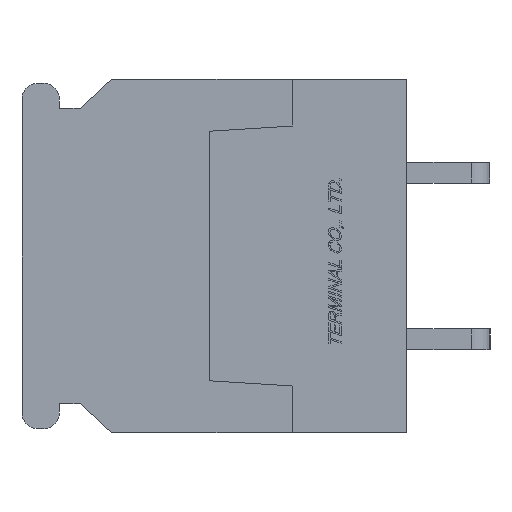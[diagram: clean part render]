
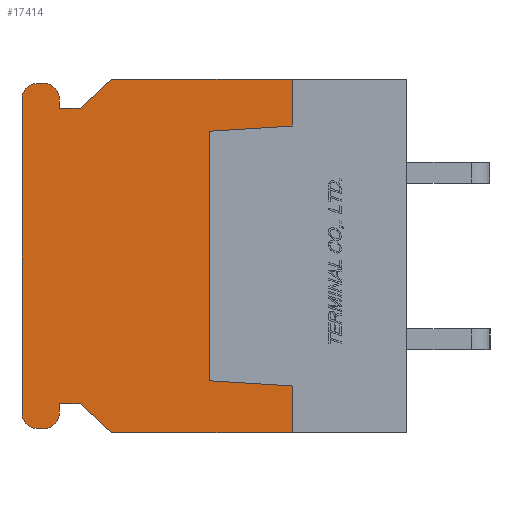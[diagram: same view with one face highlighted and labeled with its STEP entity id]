
A CAD part, left-side view. The second image highlights one B-rep face of the part: STEP entity #17414.
In plain terms, the highlighted planar face has unit normal (-1, 0, 0).
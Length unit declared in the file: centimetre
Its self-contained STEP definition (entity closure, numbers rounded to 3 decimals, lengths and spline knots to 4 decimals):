
#1035=CIRCLE('',#29761,0.075);
#1036=CIRCLE('',#29762,0.075);
#1037=CIRCLE('',#29763,0.075);
#1038=CIRCLE('',#29764,0.075);
#2139=VERTEX_POINT('',#26164);
#2140=VERTEX_POINT('',#26166);
#2141=VERTEX_POINT('',#26170);
#2142=VERTEX_POINT('',#26174);
#2143=VERTEX_POINT('',#26178);
#2144=VERTEX_POINT('',#26182);
#2194=VERTEX_POINT('',#26286);
#2242=VERTEX_POINT('',#26412);
#2415=VERTEX_POINT('',#27005);
#2416=VERTEX_POINT('',#27007);
#2417=VERTEX_POINT('',#27009);
#2418=VERTEX_POINT('',#27011);
#2419=VERTEX_POINT('',#27013);
#2420=VERTEX_POINT('',#27015);
#2421=VERTEX_POINT('',#27017);
#2422=VERTEX_POINT('',#27019);
#2423=VERTEX_POINT('',#27021);
#2424=VERTEX_POINT('',#27023);
#2425=VERTEX_POINT('',#27025);
#2426=VERTEX_POINT('',#27027);
#3886=VECTOR('',#20820,1.);
#3889=VECTOR('',#20824,1.);
#3891=VECTOR('',#20827,1.);
#3893=VECTOR('',#20830,1.);
#3895=VECTOR('',#20833,1.);
#3942=VECTOR('',#20890,1.);
#4003=VECTOR('',#20977,1.);
#4254=VECTOR('',#21468,1.);
#4255=VECTOR('',#21469,1.);
#4256=VECTOR('',#21470,1.);
#4257=VECTOR('',#21473,1.);
#4258=VECTOR('',#21476,1.);
#4259=VECTOR('',#21479,1.);
#4260=VECTOR('',#21482,1.);
#4261=VECTOR('',#21483,1.);
#4262=VECTOR('',#21484,1.);
#5806=LINE('',#26165,#3886);
#5809=LINE('',#26171,#3889);
#5811=LINE('',#26175,#3891);
#5813=LINE('',#26179,#3893);
#5815=LINE('',#26183,#3895);
#5862=LINE('',#26285,#3942);
#5923=LINE('',#26413,#4003);
#6174=LINE('',#27004,#4254);
#6175=LINE('',#27006,#4255);
#6176=LINE('',#27008,#4256);
#6177=LINE('',#27012,#4257);
#6178=LINE('',#27016,#4258);
#6179=LINE('',#27020,#4259);
#6180=LINE('',#27024,#4260);
#6181=LINE('',#27026,#4261);
#6182=LINE('',#27028,#4262);
#8244=EDGE_CURVE('',#2140,#2139,#5806,.T.);
#8247=EDGE_CURVE('',#2139,#2141,#5809,.T.);
#8249=EDGE_CURVE('',#2141,#2142,#5811,.T.);
#8251=EDGE_CURVE('',#2142,#2143,#5813,.T.);
#8253=EDGE_CURVE('',#2143,#2144,#5815,.T.);
#8304=EDGE_CURVE('',#2140,#2194,#5862,.T.);
#8369=EDGE_CURVE('',#2242,#2144,#5923,.T.);
#8668=EDGE_CURVE('',#2415,#2242,#6174,.T.);
#8669=EDGE_CURVE('',#2416,#2415,#6175,.T.);
#8670=EDGE_CURVE('',#2417,#2416,#6176,.T.);
#8671=EDGE_CURVE('',#2418,#2417,#1035,.T.);
#8672=EDGE_CURVE('',#2419,#2418,#6177,.T.);
#8673=EDGE_CURVE('',#2420,#2419,#1036,.T.);
#8674=EDGE_CURVE('',#2421,#2420,#6178,.T.);
#8675=EDGE_CURVE('',#2422,#2421,#1037,.T.);
#8676=EDGE_CURVE('',#2423,#2422,#6179,.T.);
#8677=EDGE_CURVE('',#2424,#2423,#1038,.T.);
#8678=EDGE_CURVE('',#2425,#2424,#6180,.T.);
#8679=EDGE_CURVE('',#2426,#2425,#6181,.T.);
#8680=EDGE_CURVE('',#2194,#2426,#6182,.T.);
#13275=ORIENTED_EDGE('',*,*,#8253,.T.);
#13276=ORIENTED_EDGE('',*,*,#8369,.F.);
#13277=ORIENTED_EDGE('',*,*,#8668,.F.);
#13278=ORIENTED_EDGE('',*,*,#8669,.F.);
#13279=ORIENTED_EDGE('',*,*,#8670,.F.);
#13280=ORIENTED_EDGE('',*,*,#8671,.F.);
#13281=ORIENTED_EDGE('',*,*,#8672,.F.);
#13282=ORIENTED_EDGE('',*,*,#8673,.F.);
#13283=ORIENTED_EDGE('',*,*,#8674,.F.);
#13284=ORIENTED_EDGE('',*,*,#8675,.F.);
#13285=ORIENTED_EDGE('',*,*,#8676,.F.);
#13286=ORIENTED_EDGE('',*,*,#8677,.F.);
#13287=ORIENTED_EDGE('',*,*,#8678,.F.);
#13288=ORIENTED_EDGE('',*,*,#8679,.F.);
#13289=ORIENTED_EDGE('',*,*,#8680,.F.);
#13290=ORIENTED_EDGE('',*,*,#8304,.F.);
#13291=ORIENTED_EDGE('',*,*,#8244,.T.);
#13292=ORIENTED_EDGE('',*,*,#8247,.T.);
#13293=ORIENTED_EDGE('',*,*,#8249,.T.);
#13294=ORIENTED_EDGE('',*,*,#8251,.T.);
#15330=EDGE_LOOP('',(#13275,#13276,#13277,#13278,#13279,#13280,#13281,#13282,
#13283,#13284,#13285,#13286,#13287,#13288,#13289,#13290,#13291,#13292,#13293,
#13294));
#16422=FACE_BOUND('',#15330,.T.);
#17414=ADVANCED_FACE('',(#16422),#18186,.F.);
#18186=PLANE('',#29760);
#20820=DIRECTION('',(0.,0.,1.));
#20824=DIRECTION('',(0.,0.998,0.062));
#20827=DIRECTION('',(0.,0.,1.));
#20830=DIRECTION('',(0.,-0.998,0.062));
#20833=DIRECTION('',(0.,0.,1.));
#20890=DIRECTION('',(0.,1.,0.));
#20977=DIRECTION('',(0.,-1.,0.));
#21467=DIRECTION('',(1.,0.,0.));
#21468=DIRECTION('',(0.,-0.731,0.682));
#21469=DIRECTION('',(0.,-1.,0.));
#21470=DIRECTION('',(0.,0.,-1.));
#21471=DIRECTION('',(1.,0.,0.));
#21472=DIRECTION('',(0.,0.,-0.075));
#21473=DIRECTION('',(0.,-1.,0.));
#21474=DIRECTION('',(1.,0.,0.));
#21475=DIRECTION('',(0.,0.,-0.075));
#21476=DIRECTION('',(0.,0.,1.));
#21477=DIRECTION('',(1.,0.,0.));
#21478=DIRECTION('',(0.,0.,-0.075));
#21479=DIRECTION('',(0.,1.,0.));
#21480=DIRECTION('',(1.,0.,0.));
#21481=DIRECTION('',(0.,0.,-0.075));
#21482=DIRECTION('',(0.,0.,-1.));
#21483=DIRECTION('',(0.,1.,0.));
#21484=DIRECTION('',(0.,0.731,0.682));
#26164=CARTESIAN_POINT('',(-1.,0.55,-0.625));
#26165=CARTESIAN_POINT('',(-1.,0.55,-0.3687));
#26166=CARTESIAN_POINT('',(-1.,0.55,-0.85));
#26170=CARTESIAN_POINT('',(-1.,0.95,-0.6));
#26171=CARTESIAN_POINT('',(-1.,0.8629,-0.6054));
#26174=CARTESIAN_POINT('',(-1.,0.95,0.6));
#26175=CARTESIAN_POINT('',(-1.,0.95,0.));
#26178=CARTESIAN_POINT('',(-1.,0.55,0.625));
#26179=CARTESIAN_POINT('',(-1.,0.8629,0.6054));
#26182=CARTESIAN_POINT('',(-1.,0.55,0.85));
#26183=CARTESIAN_POINT('',(-1.,0.55,0.3687));
#26285=CARTESIAN_POINT('',(-1.,0.,-0.85));
#26286=CARTESIAN_POINT('',(-1.,1.42,-0.85));
#26412=CARTESIAN_POINT('',(-1.,1.42,0.85));
#26413=CARTESIAN_POINT('',(-1.,1.42,0.85));
#27003=CARTESIAN_POINT('',(-1.,0.9383,0.));
#27004=CARTESIAN_POINT('',(-1.,1.57,0.71));
#27005=CARTESIAN_POINT('',(-1.,1.57,0.71));
#27006=CARTESIAN_POINT('',(-1.,1.67,0.71));
#27007=CARTESIAN_POINT('',(-1.,1.67,0.71));
#27008=CARTESIAN_POINT('',(-1.,1.67,0.755));
#27009=CARTESIAN_POINT('',(-1.,1.67,0.755));
#27010=CARTESIAN_POINT('',(-1.,1.745,0.755));
#27011=CARTESIAN_POINT('',(-1.,1.745,0.83));
#27012=CARTESIAN_POINT('',(-1.,1.775,0.83));
#27013=CARTESIAN_POINT('',(-1.,1.775,0.83));
#27014=CARTESIAN_POINT('',(-1.,1.775,0.755));
#27015=CARTESIAN_POINT('',(-1.,1.85,0.755));
#27016=CARTESIAN_POINT('',(-1.,1.85,-0.755));
#27017=CARTESIAN_POINT('',(-1.,1.85,-0.755));
#27018=CARTESIAN_POINT('',(-1.,1.775,-0.755));
#27019=CARTESIAN_POINT('',(-1.,1.775,-0.83));
#27020=CARTESIAN_POINT('',(-1.,1.745,-0.83));
#27021=CARTESIAN_POINT('',(-1.,1.745,-0.83));
#27022=CARTESIAN_POINT('',(-1.,1.745,-0.755));
#27023=CARTESIAN_POINT('',(-1.,1.67,-0.755));
#27024=CARTESIAN_POINT('',(-1.,1.67,-0.71));
#27025=CARTESIAN_POINT('',(-1.,1.67,-0.71));
#27026=CARTESIAN_POINT('',(-1.,1.57,-0.71));
#27027=CARTESIAN_POINT('',(-1.,1.57,-0.71));
#27028=CARTESIAN_POINT('',(-1.,1.42,-0.85));
#29760=AXIS2_PLACEMENT_3D('',#27003,#21467,$);
#29761=AXIS2_PLACEMENT_3D('',#27010,#21471,#21472);
#29762=AXIS2_PLACEMENT_3D('',#27014,#21474,#21475);
#29763=AXIS2_PLACEMENT_3D('',#27018,#21477,#21478);
#29764=AXIS2_PLACEMENT_3D('',#27022,#21480,#21481);
